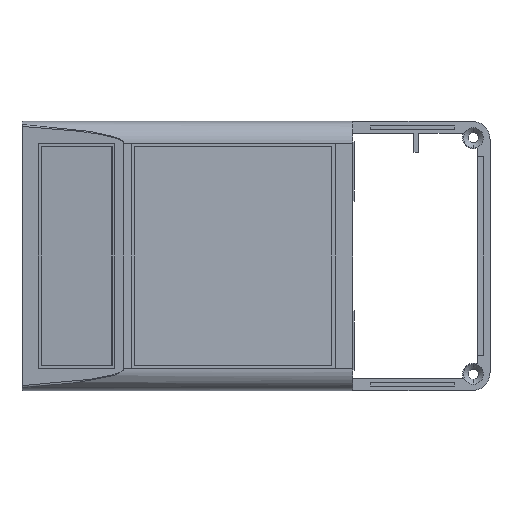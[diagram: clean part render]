
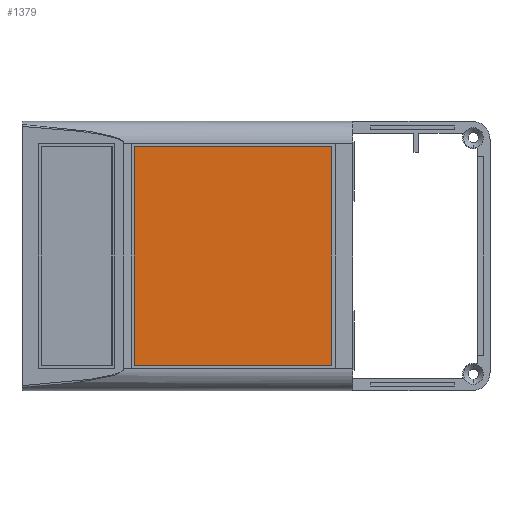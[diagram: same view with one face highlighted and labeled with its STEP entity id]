
A CAD part, front view. The second image highlights one B-rep face of the part: STEP entity #1379.
In plain terms, the highlighted planar face has unit normal (0, -1, 0).
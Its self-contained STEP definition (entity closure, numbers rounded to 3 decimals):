
#77 = ORIENTED_EDGE ( 'NONE', *, *, #214, .T. ) ;
#96 = VECTOR ( 'NONE', #388, 1000. ) ;
#214 = EDGE_CURVE ( 'NONE', #2169, #230, #1357, .T. ) ;
#230 = VERTEX_POINT ( 'NONE', #3803 ) ;
#367 = CARTESIAN_POINT ( 'NONE',  ( -27.45, -14.8, -24.65 ) ) ;
#388 = DIRECTION ( 'NONE',  ( 1., 0., 0. ) ) ;
#435 = VECTOR ( 'NONE', #4459, 1000. ) ;
#552 = VERTEX_POINT ( 'NONE', #2610 ) ;
#742 = CARTESIAN_POINT ( 'NONE',  ( 17.15, -14.8, -24.65 ) ) ;
#750 = CARTESIAN_POINT ( 'NONE',  ( -27.45, -14.8, 24.65 ) ) ;
#1034 = LINE ( 'NONE', #1546, #1251 ) ;
#1038 = EDGE_LOOP ( 'NONE', ( #4299, #1773, #77, #3294 ) ) ;
#1251 = VECTOR ( 'NONE', #3416, 1000. ) ;
#1357 = LINE ( 'NONE', #3988, #2309 ) ;
#1375 = FACE_OUTER_BOUND ( 'NONE', #1038, .T. ) ;
#1379 = ADVANCED_FACE ( 'NONE', ( #1375 ), #4576, .F. ) ;
#1392 = EDGE_CURVE ( 'NONE', #4562, #552, #4376, .T. ) ;
#1546 = CARTESIAN_POINT ( 'NONE',  ( -27.45, -14.8, 24.65 ) ) ;
#1773 = ORIENTED_EDGE ( 'NONE', *, *, #2210, .T. ) ;
#2135 = AXIS2_PLACEMENT_3D ( 'NONE', #4479, #4429, #4422 ) ;
#2169 = VERTEX_POINT ( 'NONE', #742 ) ;
#2210 = EDGE_CURVE ( 'NONE', #552, #2169, #2960, .T. ) ;
#2309 = VECTOR ( 'NONE', #3834, 1000. ) ;
#2610 = CARTESIAN_POINT ( 'NONE',  ( -27.45, -14.8, -24.65 ) ) ;
#2960 = LINE ( 'NONE', #367, #96 ) ;
#3294 = ORIENTED_EDGE ( 'NONE', *, *, #4739, .T. ) ;
#3416 = DIRECTION ( 'NONE',  ( -1., 0., 0. ) ) ;
#3803 = CARTESIAN_POINT ( 'NONE',  ( 17.15, -14.8, 24.65 ) ) ;
#3834 = DIRECTION ( 'NONE',  ( 0., 0., 1. ) ) ;
#3988 = CARTESIAN_POINT ( 'NONE',  ( 17.15, -14.8, 24.65 ) ) ;
#4299 = ORIENTED_EDGE ( 'NONE', *, *, #1392, .T. ) ;
#4376 = LINE ( 'NONE', #4378, #435 ) ;
#4378 = CARTESIAN_POINT ( 'NONE',  ( -27.45, -14.8, 24.65 ) ) ;
#4422 = DIRECTION ( 'NONE',  ( 0., 0., 1. ) ) ;
#4429 = DIRECTION ( 'NONE',  ( 0., 1., 0. ) ) ;
#4459 = DIRECTION ( 'NONE',  ( 0., 0., -1. ) ) ;
#4479 = CARTESIAN_POINT ( 'NONE',  ( 0., -14.8, 0. ) ) ;
#4562 = VERTEX_POINT ( 'NONE', #750 ) ;
#4576 = PLANE ( 'NONE',  #2135 ) ;
#4739 = EDGE_CURVE ( 'NONE', #230, #4562, #1034, .T. ) ;
